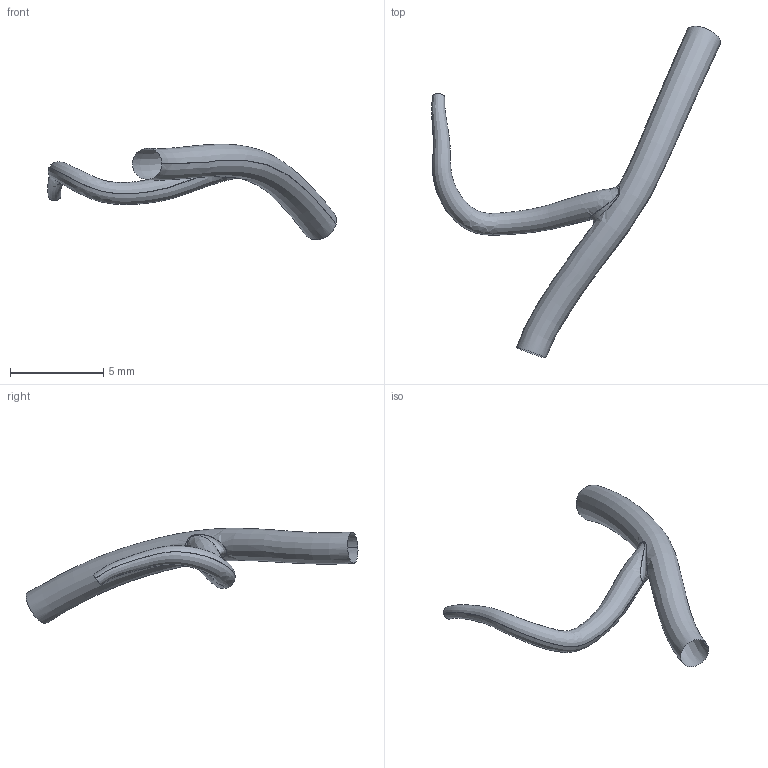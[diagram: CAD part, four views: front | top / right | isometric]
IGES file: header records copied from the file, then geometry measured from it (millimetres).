
Global section: file name: C:\Documents and Settings\Administrator\Desktop\FDA-Pig\Domestic RCA\Pig_000004\avc.ed.igs; native system: Rhinoceros ( May 19 2006 ); preprocessor: Trout Lake IGES 012 May 19 2006; date: 111205.185000; units: centimetre
Bounding box: 15.48 x 17.79 x 5.12 mm (x, y, z)
Surface area: 164.5 mm2 (no closed solid volume)
Topology: 0 solids, 0 shells, 3 faces, 53 edges, 50 vertices
Faces by surface type: bspline 3
